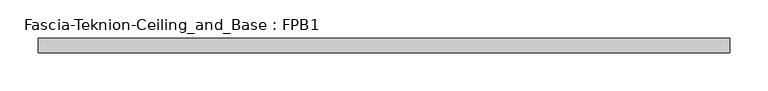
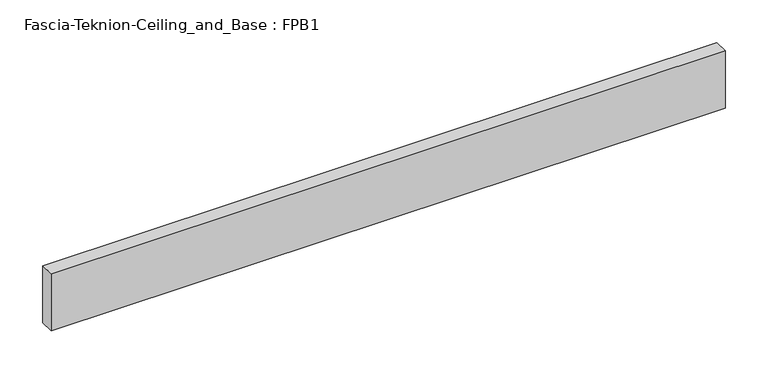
"""IFC4 building model written with IfcOpenShell, lengths in millimetres: proxy geometry, Fascia-Teknion-Ceiling_and_Base : FPB1."""

from ifc_helpers import new_model, si_unit, origin, origin_with_axes, place, context, project, spatial, polyline, outline, extrude, source, transform, mapped, element, save


def fascia_teknion_ceiling_and_base_fpb1_9cc94717(model_context):
    return source(origin(), model_context, "Body", "SweptSolid", [
        extrude(outline(polyline([(454.025, 0.0), (454.025, -19.05), (-454.025, -19.05), (-454.025, 0.0), (454.025, 0.0)])), origin_with_axes(), (0.0, 0.0, 1.0), 81.28),
    ])


if __name__ == "__main__":
    model = new_model("IFC4")
    model_context = context("Model", 3, world=origin())
    ifc_project = project(units=[si_unit("LENGTHUNIT", "METRE", prefix="MILLI")], contexts=[model_context])
    site = spatial("IfcSite", under=ifc_project)
    building = spatial("IfcBuilding", under=site)
    placement = place(None, origin())
    fascia_teknion_ceiling_and_base_fpb1_shape = fascia_teknion_ceiling_and_base_fpb1_9cc94717(model_context)
    element("IfcBuildingElementProxy", 1, Name="Fascia-Teknion-Ceiling_and_Base : FPB1", ObjectType="Fascia-Teknion-Ceiling_and_Base : FPB1", at=placement, inside=building, context=model_context, shape_type="MappedRepresentation", body=[
        mapped(fascia_teknion_ceiling_and_base_fpb1_shape, transform((0.0, 0.0, 0.0), x_axis=(1.0, 0.0, 0.0), y_axis=(0.0, 1.0, 0.0), z_axis=(0.0, 0.0, 1.0))),
    ])
    save(model, "model.ifc")
